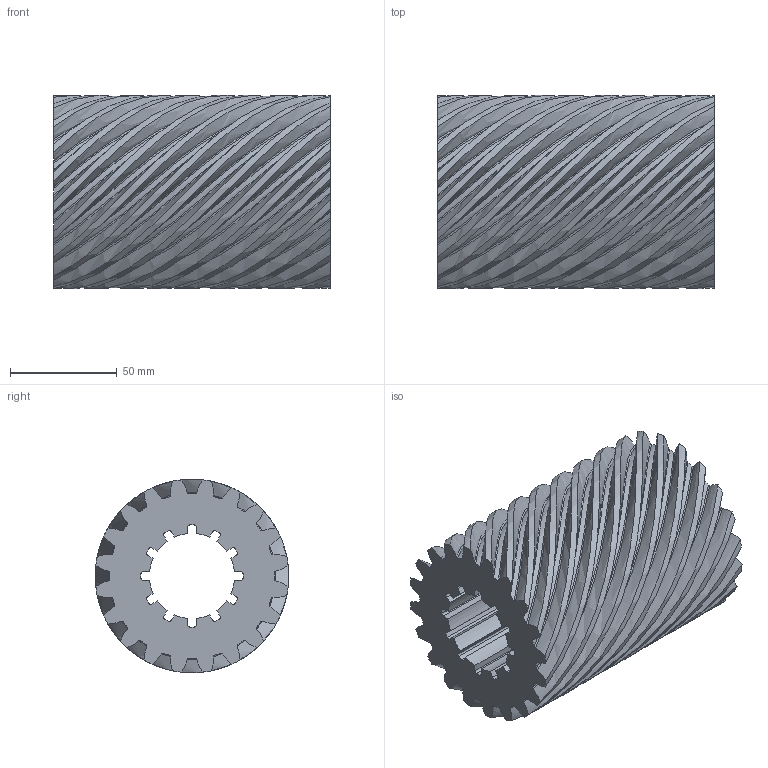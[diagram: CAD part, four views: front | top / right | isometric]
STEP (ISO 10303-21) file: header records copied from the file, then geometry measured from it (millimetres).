
FILE_DESCRIPTION(/* description */ (''),/* implementation_level */ '2;1');
FILE_NAME(/* name */ 'G:\YandexDisk\Работа\Inventor\Универ\ОАП\Лабораторные работы\ЛР6 Создание сборок\Редуктор\stp\Червяк 1.stp',/* time_stamp */ '2023-11-17T06:38:04+03:00',/* author */ ('34740'),/* organization */ (''),/* preprocessor_version */ 'ST-DEVELOPER v18.1',/* originating_system */ 'Autodesk Inventor 2022',/* authorisation */ '');
FILE_SCHEMA (('AUTOMOTIVE_DESIGN { 1 0 10303 214 3 1 1 }'));
Products named in the file (1): Червяк 1
Bounding box: 130 x 90.85 x 90.85 mm (x, y, z)
Volume: 538963.5 mm3; surface area: 106459.6 mm2
Topology: 1 solids, 1 shells, 194 faces, 576 edges, 384 vertices
Faces by surface type: bspline 80, cylinder 76, plane 38
Entity records: 45760 total; most frequent: CARTESIAN_POINT 40860, ORIENTED_EDGE 1152, DIRECTION 998, EDGE_CURVE 576, AXIS2_PLACEMENT_3D 427, VERTEX_POINT 384, CIRCLE 312, EDGE_LOOP 196
